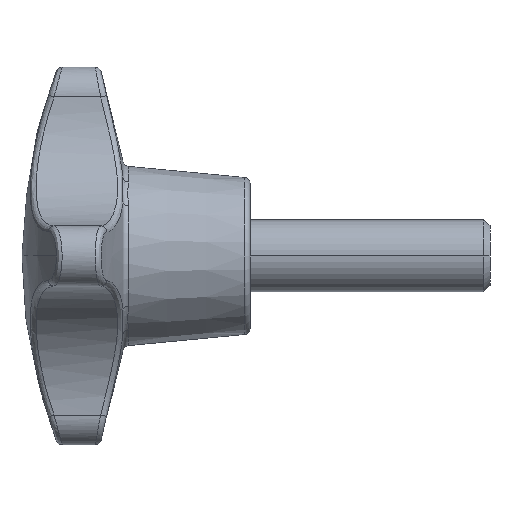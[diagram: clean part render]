
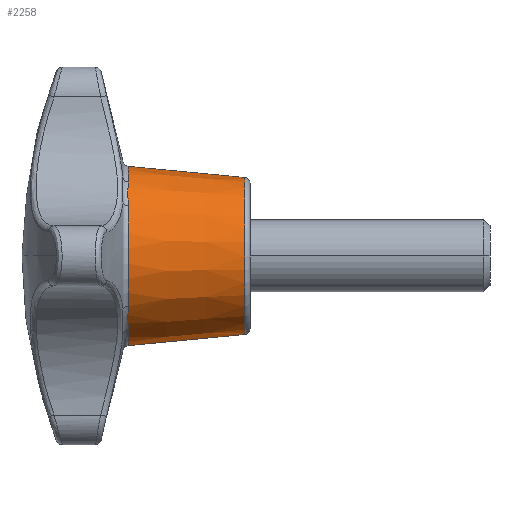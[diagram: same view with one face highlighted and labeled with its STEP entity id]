
A CAD part, left-side view. The second image highlights one B-rep face of the part: STEP entity #2258.
In plain terms, the highlighted conical face has half-angle 5.44 degrees and reference radius 13 mm.
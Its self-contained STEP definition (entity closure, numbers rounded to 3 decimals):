
#2045 = VERTEX_POINT ( 'NONE', #4728 ) ;
#2046 = VERTEX_POINT ( 'NONE', #4745 ) ;
#2096 = VERTEX_POINT ( 'NONE', #4890 ) ;
#2136 = EDGE_CURVE ( 'NONE', #2045, #2180, #5061, .T. ) ;
#2180 = VERTEX_POINT ( 'NONE', #5280 ) ;
#2183 = EDGE_CURVE ( 'NONE', #2046, #2096, #5277, .T. ) ;
#2192 = EDGE_CURVE ( 'NONE', #2259, #2256, #5281, .T. ) ;
#2193 = VERTEX_POINT ( 'NONE', #5266 ) ;
#2194 = EDGE_CURVE ( 'NONE', #2256, #2193, #5355, .T. ) ;
#2196 = ORIENTED_EDGE ( 'NONE', *, *, #2194, .T. ) ;
#2197 = ORIENTED_EDGE ( 'NONE', *, *, #2209, .T. ) ;
#2202 = ORIENTED_EDGE ( 'NONE', *, *, #2265, .T. ) ;
#2203 = ORIENTED_EDGE ( 'NONE', *, *, #2269, .T. ) ;
#2204 = ORIENTED_EDGE ( 'NONE', *, *, #2208, .T. ) ;
#2205 = ORIENTED_EDGE ( 'NONE', *, *, #2136, .T. ) ;
#2208 = EDGE_CURVE ( 'NONE', #2180, #2270, #5375, .T. ) ;
#2209 = EDGE_CURVE ( 'NONE', #2193, #2096, #5377, .T. ) ;
#2253 = ORIENTED_EDGE ( 'NONE', *, *, #2183, .F. ) ;
#2256 = VERTEX_POINT ( 'NONE', #5584 ) ;
#2258 = ADVANCED_FACE ( 'NONE', ( #5712 ), #5702, .T. ) ;
#2259 = VERTEX_POINT ( 'NONE', #5709 ) ;
#2260 = EDGE_LOOP ( 'NONE', ( #2253, #2202, #2205, #2204, #2203, #2268, #2196, #2197 ) ) ;
#2265 = EDGE_CURVE ( 'NONE', #2046, #2045, #5589, .T. ) ;
#2268 = ORIENTED_EDGE ( 'NONE', *, *, #2192, .T. ) ;
#2269 = EDGE_CURVE ( 'NONE', #2270, #2259, #5752, .T. ) ;
#2270 = VERTEX_POINT ( 'NONE', #5794 ) ;
#4728 = CARTESIAN_POINT ( 'NONE',  ( 0., 0.905, 13.086 ) ) ;
#4745 = CARTESIAN_POINT ( 'NONE',  ( 0., 0.905, -13.086 ) ) ;
#4890 = CARTESIAN_POINT ( 'NONE',  ( 0., 20.291, -14.932 ) ) ;
#5058 = DIRECTION ( 'NONE',  ( 0., 0.995, 0.095 ) ) ;
#5059 = VECTOR ( 'NONE', #5058, 1000. ) ;
#5060 = CARTESIAN_POINT ( 'NONE',  ( 0., 0., 13. ) ) ;
#5061 = LINE ( 'NONE', #5060, #5059 ) ;
#5266 = CARTESIAN_POINT ( 'NONE',  ( -8.403, 20.291, -12.344 ) ) ;
#5271 = AXIS2_PLACEMENT_3D ( 'NONE', #5364, #5363, #5362 ) ;
#5274 = DIRECTION ( 'NONE',  ( 0., 0.995, -0.095 ) ) ;
#5275 = VECTOR ( 'NONE', #5274, 1000. ) ;
#5276 = CARTESIAN_POINT ( 'NONE',  ( 0., 0., -13. ) ) ;
#5277 = LINE ( 'NONE', #5276, #5275 ) ;
#5280 = CARTESIAN_POINT ( 'NONE',  ( 0., 20.291, 14.932 ) ) ;
#5281 = CIRCLE ( 'NONE', #5271, 14.932 ) ;
#5341 = CARTESIAN_POINT ( 'NONE',  ( -8.403, 20.291, -12.344 ) ) ;
#5342 = CARTESIAN_POINT ( 'NONE',  ( -8.791, 20.291, -12.08 ) ) ;
#5343 = CARTESIAN_POINT ( 'NONE',  ( -9.164, 20.309, -11.801 ) ) ;
#5344 = CARTESIAN_POINT ( 'NONE',  ( -9.883, 20.342, -11.21 ) ) ;
#5345 = CARTESIAN_POINT ( 'NONE',  ( -10.228, 20.355, -10.898 ) ) ;
#5346 = CARTESIAN_POINT ( 'NONE',  ( -10.888, 20.355, -10.239 ) ) ;
#5348 = CARTESIAN_POINT ( 'NONE',  ( -11.203, 20.342, -9.891 ) ) ;
#5349 = CARTESIAN_POINT ( 'NONE',  ( -11.799, 20.309, -9.167 ) ) ;
#5350 = CARTESIAN_POINT ( 'NONE',  ( -12.079, 20.291, -8.791 ) ) ;
#5351 = CARTESIAN_POINT ( 'NONE',  ( -12.344, 20.291, -8.403 ) ) ;
#5355 = B_SPLINE_CURVE_WITH_KNOTS ( 'NONE', 3,
 ( #5351, #5350, #5349, #5348, #5346, #5345, #5344, #5343, #5342, #5341 ),
 .UNSPECIFIED., .F., .F.,
 ( 4, 2, 2, 2, 4 ),
 ( 0., 0.001, 0.003, 0.004, 0.006 ),
 .UNSPECIFIED. ) ;
#5361 = CARTESIAN_POINT ( 'NONE',  ( 0., 20.291, 0. ) ) ;
#5362 = DIRECTION ( 'NONE',  ( 0., 0., 1. ) ) ;
#5363 = DIRECTION ( 'NONE',  ( 0., -1., 0. ) ) ;
#5364 = CARTESIAN_POINT ( 'NONE',  ( 0., 20.291, 0. ) ) ;
#5374 = AXIS2_PLACEMENT_3D ( 'NONE', #5361, #5443, #5442 ) ;
#5375 = CIRCLE ( 'NONE', #5374, 14.932 ) ;
#5376 = CARTESIAN_POINT ( 'NONE',  ( 0., 20.291, 0. ) ) ;
#5377 = CIRCLE ( 'NONE', #5439, 14.932 ) ;
#5437 = DIRECTION ( 'NONE',  ( 0., 0., 1. ) ) ;
#5438 = DIRECTION ( 'NONE',  ( 0., -1., 0. ) ) ;
#5439 = AXIS2_PLACEMENT_3D ( 'NONE', #5376, #5438, #5437 ) ;
#5442 = DIRECTION ( 'NONE',  ( 0., 0., 1. ) ) ;
#5443 = DIRECTION ( 'NONE',  ( 0., -1., 0. ) ) ;
#5584 = CARTESIAN_POINT ( 'NONE',  ( -12.344, 20.291, -8.403 ) ) ;
#5589 = CIRCLE ( 'NONE', #5729, 13.086 ) ;
#5665 = CARTESIAN_POINT ( 'NONE',  ( 0., 0., 0. ) ) ;
#5668 = AXIS2_PLACEMENT_3D ( 'NONE', #5665, #5711, #5710 ) ;
#5702 = CONICAL_SURFACE ( 'NONE', #5668, 13., 0.095 ) ;
#5704 = CARTESIAN_POINT ( 'NONE',  ( 0., 0.905, 0. ) ) ;
#5709 = CARTESIAN_POINT ( 'NONE',  ( -12.344, 20.291, 8.403 ) ) ;
#5710 = DIRECTION ( 'NONE',  ( 0., 0., 1. ) ) ;
#5711 = DIRECTION ( 'NONE',  ( 0., 1., 0. ) ) ;
#5712 = FACE_OUTER_BOUND ( 'NONE', #2260, .T. ) ;
#5727 = DIRECTION ( 'NONE',  ( 0., 0., -1. ) ) ;
#5728 = DIRECTION ( 'NONE',  ( 0., 1., 0. ) ) ;
#5729 = AXIS2_PLACEMENT_3D ( 'NONE', #5704, #5728, #5727 ) ;
#5751 = CARTESIAN_POINT ( 'NONE',  ( -8.403, 20.291, 12.344 ) ) ;
#5752 = B_SPLINE_CURVE_WITH_KNOTS ( 'NONE', 3,
 ( #5751, #5838, #5837, #5836, #5835, #5834, #5833, #5832, #5831, #5830 ),
 .UNSPECIFIED., .F., .F.,
 ( 4, 2, 2, 2, 4 ),
 ( 0., 0.001, 0.003, 0.004, 0.006 ),
 .UNSPECIFIED. ) ;
#5794 = CARTESIAN_POINT ( 'NONE',  ( -8.403, 20.291, 12.344 ) ) ;
#5830 = CARTESIAN_POINT ( 'NONE',  ( -12.344, 20.291, 8.403 ) ) ;
#5831 = CARTESIAN_POINT ( 'NONE',  ( -12.08, 20.291, 8.791 ) ) ;
#5832 = CARTESIAN_POINT ( 'NONE',  ( -11.801, 20.309, 9.164 ) ) ;
#5833 = CARTESIAN_POINT ( 'NONE',  ( -11.21, 20.342, 9.883 ) ) ;
#5834 = CARTESIAN_POINT ( 'NONE',  ( -10.898, 20.355, 10.228 ) ) ;
#5835 = CARTESIAN_POINT ( 'NONE',  ( -10.239, 20.355, 10.888 ) ) ;
#5836 = CARTESIAN_POINT ( 'NONE',  ( -9.891, 20.342, 11.203 ) ) ;
#5837 = CARTESIAN_POINT ( 'NONE',  ( -9.167, 20.309, 11.799 ) ) ;
#5838 = CARTESIAN_POINT ( 'NONE',  ( -8.791, 20.291, 12.079 ) ) ;
